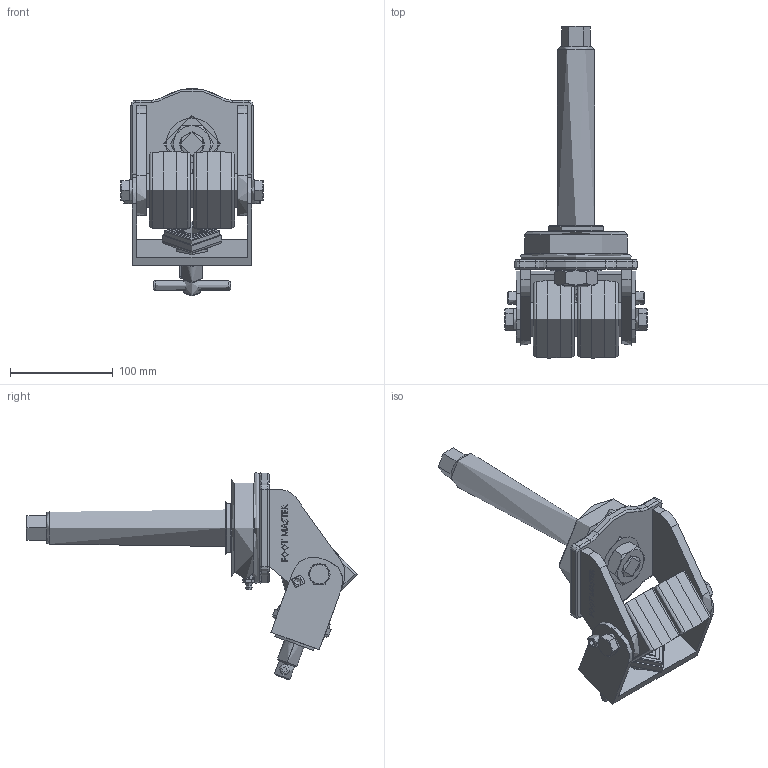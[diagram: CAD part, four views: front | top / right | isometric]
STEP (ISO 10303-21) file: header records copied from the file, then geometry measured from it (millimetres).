
FILE_DESCRIPTION(/* description */ (''),/* implementation_level */ '2;1');
FILE_NAME(/* name */ 'C:\Users\admin\Desktop\업무폴더\일자별 업무\2024\03월\03.08\홈페이지용 3D\3D\GXTT-75-BSS-HUD-PTR36x174L.stp',/* time_stamp */ '2024-03-13T17:36:43+09:00',/* author */ ('admin'),/* organization */ (''),/* preprocessor_version */ 'ST-DEVELOPER v18.1',/* originating_system */ 'Autodesk Inventor 2021',/* authorisation */ '');
FILE_SCHEMA (('CONFIG_CONTROL_DESIGN'));
Length unit declared in the file: millimetre
Products named in the file (1): GXTT-75-BSS-HUD-PTR36x174L_PART
Bounding box: 138 x 322.5 x 201.81 mm (x, y, z)
Topology: 4 solids, 12 shells, 621 faces, 1490 edges, 954 vertices
Faces by surface type: plane 353, bspline 91, cylinder 70, cone 65, torus 42
Full cylindrical faces by diameter (mm): 1 x1, 6.647 x2, 8 x2, 9 x2, 9.8 x1, 10 x1, 10.2 x1, 11.8 x1, 12 x1, 12.2 x1, 13 x2, 16 x1, 20 x1, 20.6 x2, 21 x1, 24 x1, 32 x1, 33 x3, 36 x2, 40 x1, 42 x1, 50 x1, 54 x2, 58 x1, 60 x1, 75 x2, 85 x1, 100 x1
Entity records: 19653 total; most frequent: CARTESIAN_POINT 5776, ORIENTED_EDGE 2992, DIRECTION 2602, EDGE_CURVE 1496, VERTEX_POINT 954, AXIS2_PLACEMENT_3D 868, LINE 866, VECTOR 866
